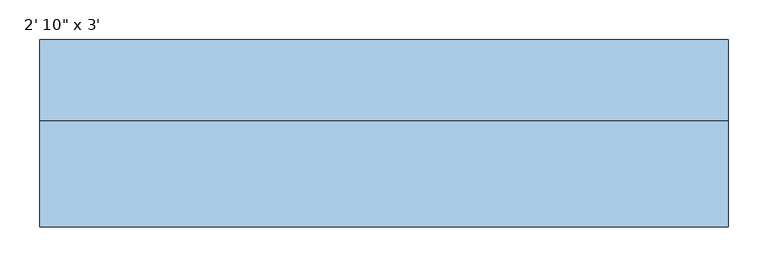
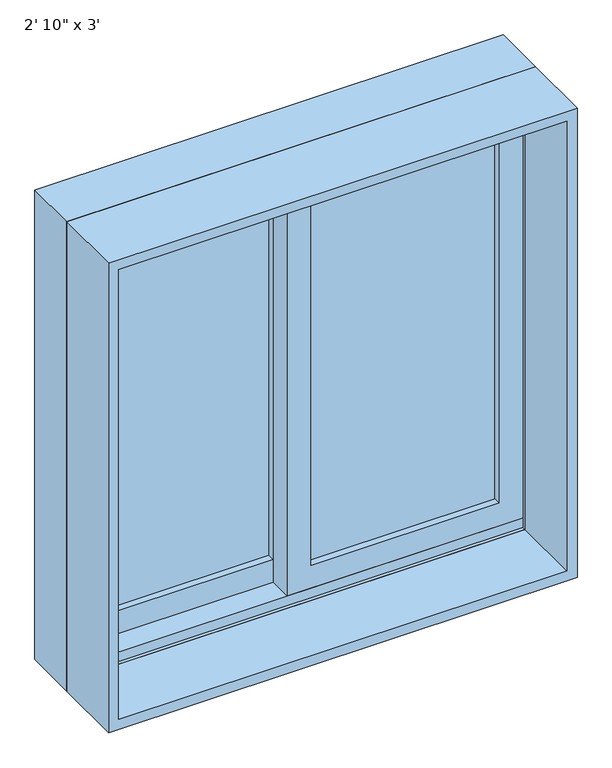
"""IFC4 building model written with IfcOpenShell, lengths in millimetres: window geometry."""

from ifc_helpers import new_model, si_unit, frame, origin, place, context, project, spatial, polyline, outline, extrude, faceted_brep, source, transform, mapped, element, save


def window_a472aa97(model_context):
    return source(origin(), model_context, "Body", "SolidModel", [
        extrude(outline(polyline([(933.45, -412.75), (933.45, 22.225), (1809.75, 22.225), (1809.75, -412.75), (933.45, -412.75)]), holes=[polyline([(1765.3, -22.225), (996.95, -22.225), (996.95, -368.3), (1765.3, -368.3), (1765.3, -22.225)])]), frame((0.0, 72.39, 0.0), z_axis=(0.0, 1.0, 0.0), x_axis=(0.0, 0.0, 1.0)), (0.0, 0.0, 1.0), 44.45),
        extrude(outline(polyline([(952.5, 412.75), (1809.75, 412.75), (1809.75, -22.225), (952.5, -22.225), (952.5, 412.75)]), holes=[polyline([(996.95, 22.225), (1765.3, 22.225), (1765.3, 368.3), (996.95, 368.3), (996.95, 22.225)])]), frame((0.0, 27.94, 0.0), z_axis=(0.0, 1.0, 0.0), x_axis=(0.0, 0.0, 1.0)), (0.0, 0.0, 1.0), 44.45),
        faceted_brep([(-431.8, 21.59, 914.4), (-431.8, 123.19, 914.4), (431.8, 123.19, 914.4), (431.8, 21.59, 914.4), (-390.8778905, 123.19, 1787.8778905), (-390.8778905, 116.84, 1787.8778905), (-390.8778905, 116.84, 933.45), (-390.8778905, 123.19, 933.45), (390.8778905, 116.84, 1787.8778905), (390.8778905, 116.84, 933.45), (412.75, 116.84, 933.45), (412.75, 116.84, 1809.75), (-412.75, 116.84, 1809.75), (-412.75, 116.84, 933.45), (-412.75, 21.59, 1809.75), (-412.75, 21.59, 933.45), (-412.75, 27.94, 933.45), (-412.75, 27.94, 952.5), (-412.75, 72.39, 952.5), (-412.75, 72.39, 933.45), (431.8, 21.59, 1828.8), (-431.8, 21.59, 1828.8), (412.75, 21.59, 1809.75), (412.75, 21.59, 933.45), (-431.8, 123.19, 1828.8), (431.8, 123.19, 1828.8), (390.8778905, 123.19, 933.45), (390.8778905, 123.19, 1787.8778905), (412.75, 72.39, 933.45), (412.75, 72.39, 952.5), (412.75, 27.94, 952.5), (412.75, 27.94, 933.45)], [[[0, 1, 2, 3]], [[4, 5, 6, 7]], [[5, 8, 9, 10, 11, 12, 13, 6]], [[12, 14, 15, 16, 17, 18, 19, 13]], [[0, 3, 20, 21], [22, 23, 15, 14]], [[24, 1, 0, 21]], [[2, 1, 24, 25], [4, 7, 26, 27]], [[5, 4, 27, 8]], [[12, 11, 22, 14]], [[21, 20, 25, 24]], [[8, 27, 26, 9]], [[22, 11, 10, 28, 29, 30, 31, 23]], [[20, 3, 2, 25]], [[26, 7, 6, 13, 19, 28, 10, 9]], [[28, 19, 18, 29]], [[29, 18, 17, 30]], [[30, 17, 16, 31]], [[15, 23, 31, 16]]]),
        extrude(outline(polyline([(1828.8, -431.8), (914.4, -431.8), (914.4, 431.8), (1828.8, 431.8), (1828.8, -431.8)]), holes=[polyline([(1809.75, 412.75), (933.45, 412.75), (933.45, -412.75), (1809.75, -412.75), (1809.75, 412.75)])]), frame((0.0, -111.76, 0.0), z_axis=(0.0, 1.0, 0.0), x_axis=(0.0, 0.0, 1.0)), (0.0, 0.0, 1.0), 133.35),
        extrude(outline(polyline([(368.3, 59.69), (368.3, 53.34), (22.225, 53.34), (22.225, 59.69), (368.3, 59.69)])), frame((0.0, 0.0, 996.95), z_axis=(0.0, 0.0, 1.0), x_axis=(1.0, 0.0, 0.0)), (0.0, 0.0, 1.0), 768.35),
        extrude(outline(polyline([(368.3, 46.99), (368.3, 40.64), (22.225, 40.64), (22.225, 46.99), (368.3, 46.99)])), frame((0.0, 0.0, 996.95), z_axis=(0.0, 0.0, 1.0), x_axis=(1.0, 0.0, 0.0)), (0.0, 0.0, 1.0), 768.35),
        extrude(outline(polyline([(-22.225, 104.14), (-22.225, 97.79), (-368.3, 97.79), (-368.3, 104.14), (-22.225, 104.14)])), frame((0.0, 0.0, 996.95), z_axis=(0.0, 0.0, 1.0), x_axis=(1.0, 0.0, 0.0)), (0.0, 0.0, 1.0), 768.35),
        extrude(outline(polyline([(-22.225, 91.44), (-22.225, 85.09), (-368.3, 85.09), (-368.3, 91.44), (-22.225, 91.44)])), frame((0.0, 0.0, 996.95), z_axis=(0.0, 0.0, 1.0), x_axis=(1.0, 0.0, 0.0)), (0.0, 0.0, 1.0), 768.35),
    ])


if __name__ == "__main__":
    model = new_model("IFC4")
    model_context = context("Model", 3, world=origin())
    ifc_project = project(units=[si_unit("LENGTHUNIT", "METRE", prefix="MILLI")], contexts=[model_context])
    site = spatial("IfcSite", under=ifc_project)
    building = spatial("IfcBuilding", under=site)
    placement = place(None, origin())
    window_shape = window_a472aa97(model_context)
    element("IfcWindow", 1, ObjectType="Planitar-Sliding-Double : 2' 10\" x 3'", at=placement, inside=building, context=model_context, shape_type="MappedRepresentation", body=[
        mapped(window_shape, transform((0.0, 0.0, 0.0), x_axis=(1.0, 0.0, 0.0), y_axis=(0.0, 1.0, 0.0), z_axis=(0.0, 0.0, 1.0))),
    ])
    save(model, "model.ifc")
